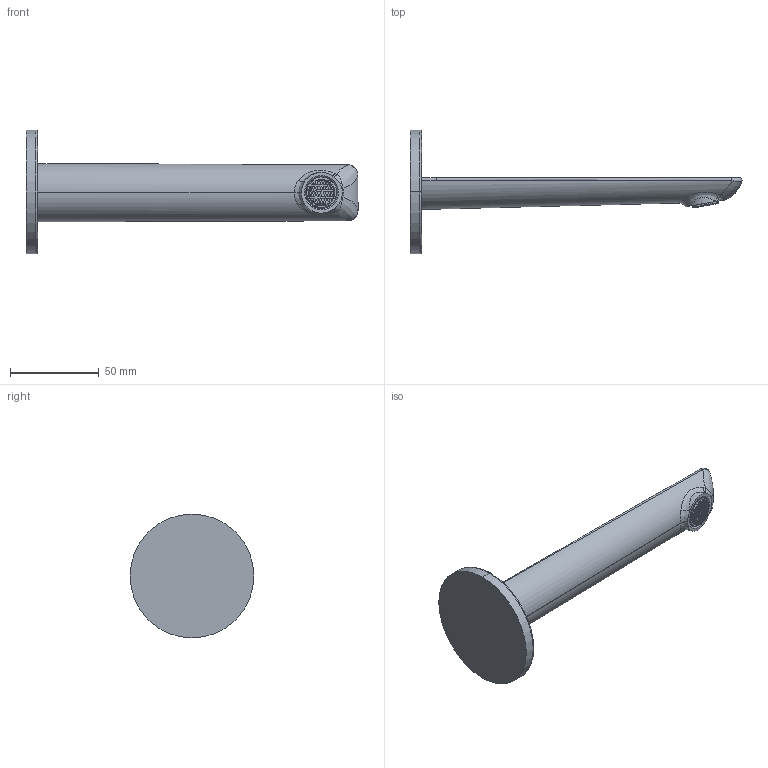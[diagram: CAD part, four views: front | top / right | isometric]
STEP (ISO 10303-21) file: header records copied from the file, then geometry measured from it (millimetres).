
FILE_DESCRIPTION (( 'STEP AP214' ), '1' );
FILE_NAME ('9921Q310 x architetti.STEP', '2024-06-20T12:12:26', ( '' ), ( '' ), 'SwSTEP 2.0', 'SolidWorks 2020', '' );
FILE_SCHEMA (( 'AUTOMOTIVE_DESIGN' ));
Length unit declared in the file: millimetre
Products named in the file (1): 9921Q310 x architetti
Bounding box: 187.37 x 69.8 x 69.8 mm (x, y, z)
Volume: 94945.4 mm3; surface area: 28794.7 mm2
Topology: 1 solids, 41 shells, 3562 faces, 9090 edges, 5860 vertices
Faces by surface type: plane 2640, cylinder 424, cone 374, bspline 122, torus 2
Entity records: 160593 total; most frequent: CARTESIAN_POINT 46920, ORIENTED_EDGE 18180, DIRECTION 11270, EDGE_CURVE 9090, VERTEX_POINT 5860, B_SPLINE_CURVE_WITH_KNOTS 4286, EDGE_LOOP 3814, AXIS2_PLACEMENT_3D 3764
